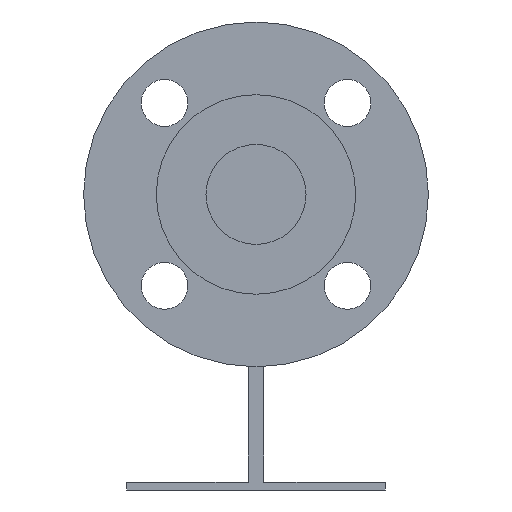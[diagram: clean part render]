
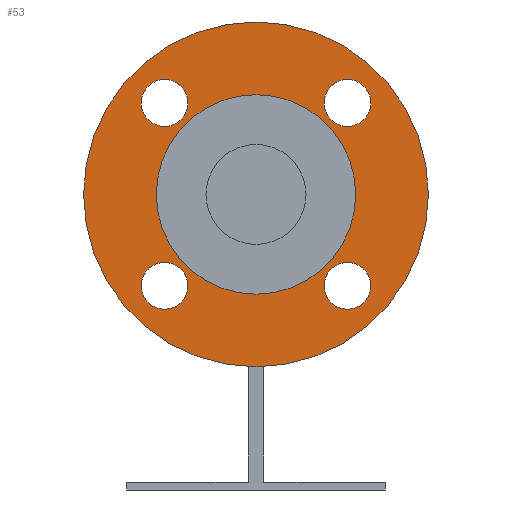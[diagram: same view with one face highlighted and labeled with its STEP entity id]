
A CAD part, left-side view. The second image highlights one B-rep face of the part: STEP entity #53.
In plain terms, the highlighted planar face has unit normal (-1, 0, 0).
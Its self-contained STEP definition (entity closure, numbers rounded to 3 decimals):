
#53=ADVANCED_FACE('',(#260,#261,#262,#263,#264,#265),#259,.T.);
#259=PLANE('',#1002);
#260=FACE_OUTER_BOUND('',#1003,.T.);
#261=FACE_BOUND('',#1004,.T.);
#262=FACE_BOUND('',#1005,.T.);
#263=FACE_BOUND('',#1006,.T.);
#264=FACE_BOUND('',#1007,.T.);
#265=FACE_BOUND('',#1008,.T.);
#999=CARTESIAN_POINT('',(-339.,-131.244,-150.));
#1000=DIRECTION('',(-1.,0.,0.));
#1001=DIRECTION('',(0.,0.,1.));
#1002=AXIS2_PLACEMENT_3D('',#999,#1000,#1001);
#1003=EDGE_LOOP('',(#1421,#1422));
#1004=EDGE_LOOP('',(#1423,#1424));
#1005=EDGE_LOOP('',(#1425,#1426));
#1006=EDGE_LOOP('',(#1427,#1428));
#1007=EDGE_LOOP('',(#1429,#1430));
#1008=EDGE_LOOP('',(#1431,#1432));
#1421=ORIENTED_EDGE('',*,*,#1799,.T.);
#1422=ORIENTED_EDGE('',*,*,#1800,.T.);
#1423=ORIENTED_EDGE('',*,*,#1801,.F.);
#1424=ORIENTED_EDGE('',*,*,#1802,.F.);
#1425=ORIENTED_EDGE('',*,*,#1803,.F.);
#1426=ORIENTED_EDGE('',*,*,#1804,.F.);
#1427=ORIENTED_EDGE('',*,*,#1805,.F.);
#1428=ORIENTED_EDGE('',*,*,#1806,.F.);
#1429=ORIENTED_EDGE('',*,*,#1807,.F.);
#1430=ORIENTED_EDGE('',*,*,#1808,.F.);
#1431=ORIENTED_EDGE('',*,*,#1809,.F.);
#1432=ORIENTED_EDGE('',*,*,#1810,.F.);
#1799=EDGE_CURVE('',#2400,#2401,#2402,.T.);
#1800=EDGE_CURVE('',#2401,#2400,#2408,.T.);
#1801=EDGE_CURVE('',#2414,#2415,#2416,.T.);
#1802=EDGE_CURVE('',#2415,#2414,#2422,.T.);
#1803=EDGE_CURVE('',#2428,#2429,#2430,.T.);
#1804=EDGE_CURVE('',#2429,#2428,#2436,.T.);
#1805=EDGE_CURVE('',#2442,#2443,#2444,.T.);
#1806=EDGE_CURVE('',#2443,#2442,#2450,.T.);
#1807=EDGE_CURVE('',#2456,#2457,#2458,.T.);
#1808=EDGE_CURVE('',#2457,#2456,#2464,.T.);
#1809=EDGE_CURVE('',#2470,#2471,#2472,.T.);
#1810=EDGE_CURVE('',#2471,#2470,#2478,.T.);
#2400=VERTEX_POINT('',#3519);
#2401=VERTEX_POINT('',#3520);
#2402=CIRCLE('',#3524,70.);
#2408=CIRCLE('',#3528,70.);
#2414=VERTEX_POINT('',#3529);
#2415=VERTEX_POINT('',#3530);
#2416=CIRCLE('',#3534,9.5);
#2422=CIRCLE('',#3538,9.5);
#2428=VERTEX_POINT('',#3539);
#2429=VERTEX_POINT('',#3540);
#2430=CIRCLE('',#3544,9.5);
#2436=CIRCLE('',#3548,9.5);
#2442=VERTEX_POINT('',#3549);
#2443=VERTEX_POINT('',#3550);
#2444=CIRCLE('',#3554,9.5);
#2450=CIRCLE('',#3558,9.5);
#2456=VERTEX_POINT('',#3559);
#2457=VERTEX_POINT('',#3560);
#2458=CIRCLE('',#3564,40.5);
#2464=CIRCLE('',#3568,40.5);
#2470=VERTEX_POINT('',#3569);
#2471=VERTEX_POINT('',#3570);
#2472=CIRCLE('',#3574,9.5);
#2478=CIRCLE('',#3578,9.5);
#3519=CARTESIAN_POINT('',(-339.,0.,70.));
#3520=CARTESIAN_POINT('',(-339.,0.,-70.));
#3521=CARTESIAN_POINT('',(-339.,0.,0.));
#3522=DIRECTION('',(-1.,0.,0.));
#3523=DIRECTION('',(0.,0.,1.));
#3524=AXIS2_PLACEMENT_3D('',#3521,#3522,#3523);
#3525=CARTESIAN_POINT('',(-339.,0.,0.));
#3526=DIRECTION('',(-1.,0.,0.));
#3527=DIRECTION('',(0.,0.,1.));
#3528=AXIS2_PLACEMENT_3D('',#3525,#3526,#3527);
#3529=CARTESIAN_POINT('',(-339.,37.123,46.623));
#3530=CARTESIAN_POINT('',(-339.,37.123,27.623));
#3531=CARTESIAN_POINT('',(-339.,37.123,37.123));
#3532=DIRECTION('',(-1.,0.,0.));
#3533=DIRECTION('',(0.,0.,-1.));
#3534=AXIS2_PLACEMENT_3D('',#3531,#3532,#3533);
#3535=CARTESIAN_POINT('',(-339.,37.123,37.123));
#3536=DIRECTION('',(-1.,0.,0.));
#3537=DIRECTION('',(0.,0.,-1.));
#3538=AXIS2_PLACEMENT_3D('',#3535,#3536,#3537);
#3539=CARTESIAN_POINT('',(-339.,-37.123,46.623));
#3540=CARTESIAN_POINT('',(-339.,-37.123,27.623));
#3541=CARTESIAN_POINT('',(-339.,-37.123,37.123));
#3542=DIRECTION('',(-1.,0.,0.));
#3543=DIRECTION('',(0.,0.,-1.));
#3544=AXIS2_PLACEMENT_3D('',#3541,#3542,#3543);
#3545=CARTESIAN_POINT('',(-339.,-37.123,37.123));
#3546=DIRECTION('',(-1.,0.,0.));
#3547=DIRECTION('',(0.,0.,-1.));
#3548=AXIS2_PLACEMENT_3D('',#3545,#3546,#3547);
#3549=CARTESIAN_POINT('',(-339.,37.123,-27.623));
#3550=CARTESIAN_POINT('',(-339.,37.123,-46.623));
#3551=CARTESIAN_POINT('',(-339.,37.123,-37.123));
#3552=DIRECTION('',(-1.,0.,0.));
#3553=DIRECTION('',(0.,0.,-1.));
#3554=AXIS2_PLACEMENT_3D('',#3551,#3552,#3553);
#3555=CARTESIAN_POINT('',(-339.,37.123,-37.123));
#3556=DIRECTION('',(-1.,0.,0.));
#3557=DIRECTION('',(0.,0.,-1.));
#3558=AXIS2_PLACEMENT_3D('',#3555,#3556,#3557);
#3559=CARTESIAN_POINT('',(-339.,0.,-40.5));
#3560=CARTESIAN_POINT('',(-339.,0.,40.5));
#3561=CARTESIAN_POINT('',(-339.,0.,0.));
#3562=DIRECTION('',(-1.,0.,0.));
#3563=DIRECTION('',(0.,0.,1.));
#3564=AXIS2_PLACEMENT_3D('',#3561,#3562,#3563);
#3565=CARTESIAN_POINT('',(-339.,0.,0.));
#3566=DIRECTION('',(-1.,0.,0.));
#3567=DIRECTION('',(0.,0.,1.));
#3568=AXIS2_PLACEMENT_3D('',#3565,#3566,#3567);
#3569=CARTESIAN_POINT('',(-339.,-37.123,-27.623));
#3570=CARTESIAN_POINT('',(-339.,-37.123,-46.623));
#3571=CARTESIAN_POINT('',(-339.,-37.123,-37.123));
#3572=DIRECTION('',(-1.,0.,0.));
#3573=DIRECTION('',(0.,0.,-1.));
#3574=AXIS2_PLACEMENT_3D('',#3571,#3572,#3573);
#3575=CARTESIAN_POINT('',(-339.,-37.123,-37.123));
#3576=DIRECTION('',(-1.,0.,0.));
#3577=DIRECTION('',(0.,0.,-1.));
#3578=AXIS2_PLACEMENT_3D('',#3575,#3576,#3577);
